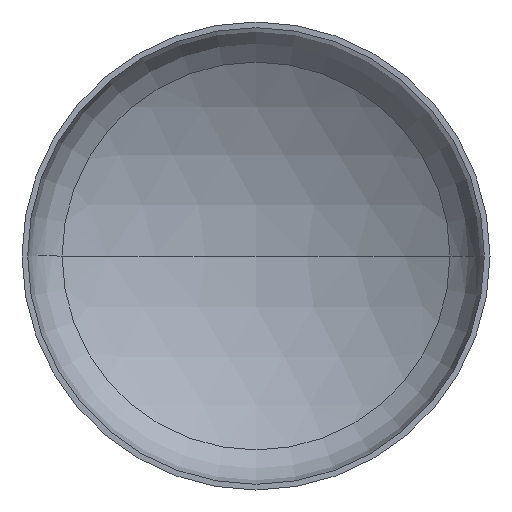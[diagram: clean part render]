
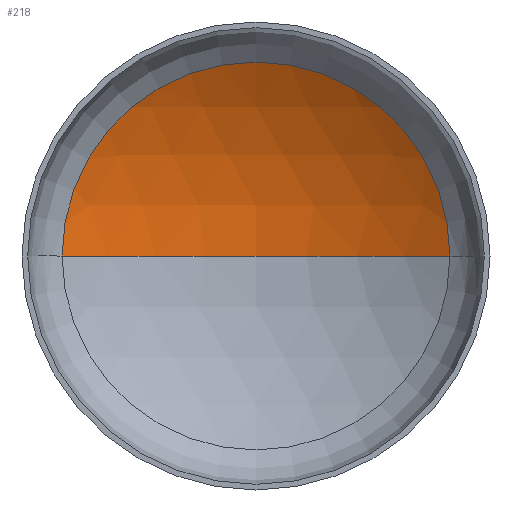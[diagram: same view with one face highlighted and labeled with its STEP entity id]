
A CAD part, front view. The second image highlights one B-rep face of the part: STEP entity #218.
In plain terms, the highlighted spherical face has radius 1520 mm.
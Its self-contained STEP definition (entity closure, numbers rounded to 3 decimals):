
#18 = AXIS2_PLACEMENT_3D ( 'NONE', #324, #161, #134 ) ;
#19 = AXIS2_PLACEMENT_3D ( 'NONE', #381, #210, #267 ) ;
#22 = AXIS2_PLACEMENT_3D ( 'NONE', #133, #125, #132 ) ;
#24 = CIRCLE ( 'NONE', #22, 787.187 ) ;
#30 = ORIENTED_EDGE ( 'NONE', *, *, #354, .T. ) ;
#40 = AXIS2_PLACEMENT_3D ( 'NONE', #88, #71, #166 ) ;
#49 = EDGE_LOOP ( 'NONE', ( #81, #365, #30 ) ) ;
#66 = VERTEX_POINT ( 'NONE', #288 ) ;
#71 = DIRECTION ( 'NONE',  ( 0., 0., -1. ) ) ;
#81 = ORIENTED_EDGE ( 'NONE', *, *, #363, .F. ) ;
#88 = CARTESIAN_POINT ( 'NONE',  ( 0., -982.203, 0. ) ) ;
#90 = FACE_OUTER_BOUND ( 'NONE', #49, .T. ) ;
#100 = CARTESIAN_POINT ( 'NONE',  ( 787.187, 318.08, 0. ) ) ;
#125 = DIRECTION ( 'NONE',  ( 0., -1., 0. ) ) ;
#132 = DIRECTION ( 'NONE',  ( 1., 0., 0. ) ) ;
#133 = CARTESIAN_POINT ( 'NONE',  ( 0., 318.08, 0. ) ) ;
#134 = DIRECTION ( 'NONE',  ( 1., 0., 0. ) ) ;
#144 = VERTEX_POINT ( 'NONE', #238 ) ;
#161 = DIRECTION ( 'NONE',  ( 0., 0., 1. ) ) ;
#164 = VERTEX_POINT ( 'NONE', #100 ) ;
#166 = DIRECTION ( 'NONE',  ( -1., 0., 0. ) ) ;
#173 = CIRCLE ( 'NONE', #18, 1520. ) ;
#210 = DIRECTION ( 'NONE',  ( 0., 0., -1. ) ) ;
#218 = ADVANCED_FACE ( 'NONE', ( #90 ), #223, .F. ) ;
#223 = SPHERICAL_SURFACE ( 'NONE', #40, 1520. ) ;
#238 = CARTESIAN_POINT ( 'NONE',  ( 0., 537.797, 0. ) ) ;
#267 = DIRECTION ( 'NONE',  ( -1., 0., 0. ) ) ;
#288 = CARTESIAN_POINT ( 'NONE',  ( -787.187, 318.08, 0. ) ) ;
#324 = CARTESIAN_POINT ( 'NONE',  ( 0., -982.203, 0. ) ) ;
#354 = EDGE_CURVE ( 'NONE', #164, #66, #24, .T. ) ;
#357 = EDGE_CURVE ( 'NONE', #144, #164, #368, .T. ) ;
#363 = EDGE_CURVE ( 'NONE', #144, #66, #173, .T. ) ;
#365 = ORIENTED_EDGE ( 'NONE', *, *, #357, .T. ) ;
#368 = CIRCLE ( 'NONE', #19, 1520. ) ;
#381 = CARTESIAN_POINT ( 'NONE',  ( 0., -982.203, 0. ) ) ;
